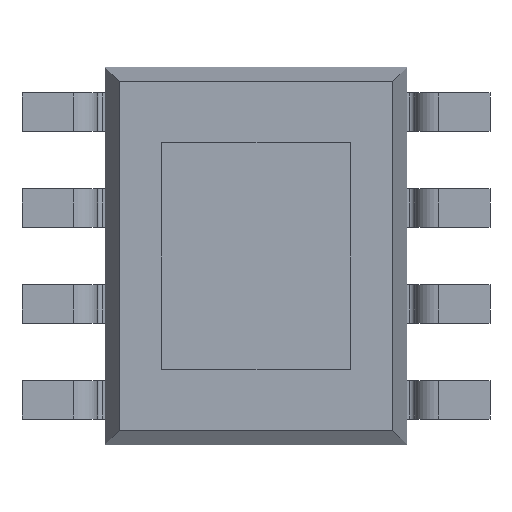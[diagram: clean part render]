
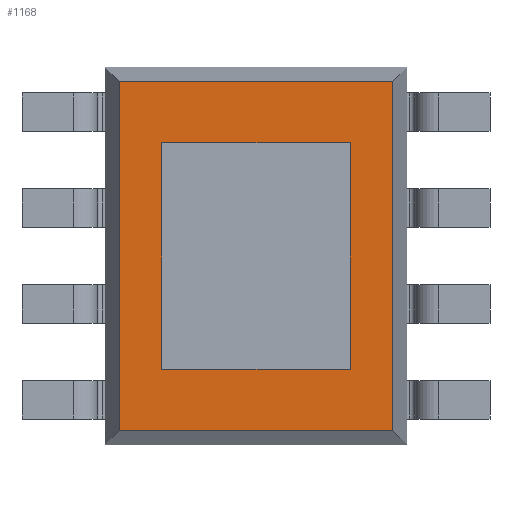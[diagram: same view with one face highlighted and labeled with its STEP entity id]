
A CAD part, front view. The second image highlights one B-rep face of the part: STEP entity #1168.
In plain terms, the highlighted planar face has unit normal (0, -1, 0).
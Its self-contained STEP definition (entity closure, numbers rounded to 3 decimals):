
#1168 = ADVANCED_FACE ( 'NONE', ( #1635, #1639 ), #4826, .F. ) ;
#1635 = FACE_OUTER_BOUND ( 'NONE', #3263, .T. ) ;
#1639 = FACE_BOUND ( 'NONE', #3262, .T. ) ;
#1898 = ORIENTED_EDGE ( 'NONE', *, *, #4415, .T. ) ;
#1899 = ORIENTED_EDGE ( 'NONE', *, *, #4414, .T. ) ;
#1900 = ORIENTED_EDGE ( 'NONE', *, *, #4413, .T. ) ;
#1901 = ORIENTED_EDGE ( 'NONE', *, *, #4412, .T. ) ;
#1902 = ORIENTED_EDGE ( 'NONE', *, *, #4411, .F. ) ;
#1903 = ORIENTED_EDGE ( 'NONE', *, *, #4410, .F. ) ;
#1904 = ORIENTED_EDGE ( 'NONE', *, *, #4409, .F. ) ;
#1905 = ORIENTED_EDGE ( 'NONE', *, *, #4408, .F. ) ;
#2295 = CARTESIAN_POINT ( 'NONE',  ( -1.25, 0.1, -1.5 ) ) ;
#2658 = CARTESIAN_POINT ( 'NONE',  ( -1.812, 0.1, 2.312 ) ) ;
#2663 = CARTESIAN_POINT ( 'NONE',  ( 1.25, 0.1, 1.5 ) ) ;
#2664 = CARTESIAN_POINT ( 'NONE',  ( -1.25, 0.1, 1.5 ) ) ;
#2665 = CARTESIAN_POINT ( 'NONE',  ( -1.812, 0.1, -2.312 ) ) ;
#2666 = CARTESIAN_POINT ( 'NONE',  ( 1.812, 0.1, -2.312 ) ) ;
#2667 = CARTESIAN_POINT ( 'NONE',  ( 1.812, 0.1, 2.312 ) ) ;
#2668 = CARTESIAN_POINT ( 'NONE',  ( 1.25, 0.1, -1.5 ) ) ;
#2781 = VERTEX_POINT ( 'NONE', #2658 ) ;
#2783 = VERTEX_POINT ( 'NONE', #2664 ) ;
#2784 = VERTEX_POINT ( 'NONE', #2665 ) ;
#2785 = VERTEX_POINT ( 'NONE', #2666 ) ;
#2786 = VERTEX_POINT ( 'NONE', #2667 ) ;
#2787 = VERTEX_POINT ( 'NONE', #2668 ) ;
#2789 = VERTEX_POINT ( 'NONE', #2663 ) ;
#2985 = VERTEX_POINT ( 'NONE', #2295 ) ;
#3262 = EDGE_LOOP ( 'NONE', ( #1902, #1903, #1904, #1905 ) ) ;
#3263 = EDGE_LOOP ( 'NONE', ( #1898, #1899, #1900, #1901 ) ) ;
#3913 = CARTESIAN_POINT ( 'NONE',  ( 1.25, 0.1, 1.5 ) ) ;
#3915 = CARTESIAN_POINT ( 'NONE',  ( -1.25, 0.1, 1.5 ) ) ;
#3926 = CARTESIAN_POINT ( 'NONE',  ( -2., 0.1, 2.312 ) ) ;
#3928 = DIRECTION ( 'NONE',  ( 0., 0., 1. ) ) ;
#3929 = CARTESIAN_POINT ( 'NONE',  ( 1.812, 0.1, -2.5 ) ) ;
#3930 = DIRECTION ( 'NONE',  ( -1., 0., 0. ) ) ;
#3931 = CARTESIAN_POINT ( 'NONE',  ( -1.25, 0.1, 1.5 ) ) ;
#3932 = DIRECTION ( 'NONE',  ( 0., 0., -1. ) ) ;
#3933 = CARTESIAN_POINT ( 'NONE',  ( -1.25, 0.1, -1.5 ) ) ;
#3934 = DIRECTION ( 'NONE',  ( 1., 0., 0. ) ) ;
#3935 = DIRECTION ( 'NONE',  ( -1., 0., 0. ) ) ;
#3936 = DIRECTION ( 'NONE',  ( 0., 0., 1. ) ) ;
#3937 = CARTESIAN_POINT ( 'NONE',  ( -2., 0.1, -2.312 ) ) ;
#3938 = DIRECTION ( 'NONE',  ( 1., 0., 0. ) ) ;
#3939 = CARTESIAN_POINT ( 'NONE',  ( -1.812, 0.1, -2.5 ) ) ;
#3940 = DIRECTION ( 'NONE',  ( 0., 0., -1. ) ) ;
#4408 = EDGE_CURVE ( 'NONE', #2787, #2789, #5841, .T. ) ;
#4409 = EDGE_CURVE ( 'NONE', #2789, #2783, #5853, .T. ) ;
#4410 = EDGE_CURVE ( 'NONE', #2783, #2985, #5857, .T. ) ;
#4411 = EDGE_CURVE ( 'NONE', #2985, #2787, #5859, .T. ) ;
#4412 = EDGE_CURVE ( 'NONE', #2786, #2781, #5855, .T. ) ;
#4413 = EDGE_CURVE ( 'NONE', #2785, #2786, #5861, .T. ) ;
#4414 = EDGE_CURVE ( 'NONE', #2784, #2785, #5865, .T. ) ;
#4415 = EDGE_CURVE ( 'NONE', #2781, #2784, #5867, .T. ) ;
#4585 = AXIS2_PLACEMENT_3D ( 'NONE', #4824, #4814, #4828 ) ;
#4814 = DIRECTION ( 'NONE',  ( 0., 1., 0. ) ) ;
#4824 = CARTESIAN_POINT ( 'NONE',  ( -2., 0.1, -2.5 ) ) ;
#4826 = PLANE ( 'NONE',  #4585 ) ;
#4828 = DIRECTION ( 'NONE',  ( 0., 0., 1. ) ) ;
#5841 = LINE ( 'NONE', #3913, #5856 ) ;
#5853 = LINE ( 'NONE', #3915, #5858 ) ;
#5855 = LINE ( 'NONE', #3926, #5864 ) ;
#5856 = VECTOR ( 'NONE', #3928, 1000. ) ;
#5857 = LINE ( 'NONE', #3931, #5860 ) ;
#5858 = VECTOR ( 'NONE', #3930, 1000. ) ;
#5859 = LINE ( 'NONE', #3933, #5862 ) ;
#5860 = VECTOR ( 'NONE', #3932, 1000. ) ;
#5861 = LINE ( 'NONE', #3929, #5866 ) ;
#5862 = VECTOR ( 'NONE', #3934, 1000. ) ;
#5864 = VECTOR ( 'NONE', #3935, 1000. ) ;
#5865 = LINE ( 'NONE', #3937, #5868 ) ;
#5866 = VECTOR ( 'NONE', #3936, 1000. ) ;
#5867 = LINE ( 'NONE', #3939, #5870 ) ;
#5868 = VECTOR ( 'NONE', #3938, 1000. ) ;
#5870 = VECTOR ( 'NONE', #3940, 1000. ) ;
